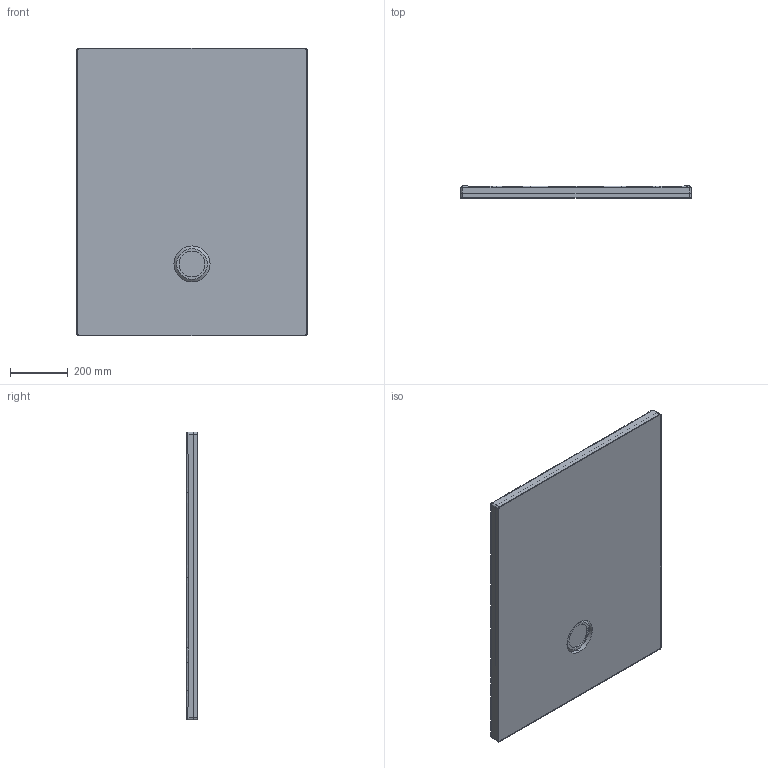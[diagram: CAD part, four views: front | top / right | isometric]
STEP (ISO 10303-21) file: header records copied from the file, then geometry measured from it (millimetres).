
FILE_DESCRIPTION((''),'2;1');
FILE_NAME('PLANEO100X80_22042019_ASM','2019-04-23T16:01:12',('grootj'),('Villeroy & Boch Wellness bv'),'CREO PARAMETRIC BY PTC INC, 2018020','CREO PARAMETRIC BY PTC INC, 2018020','');
FILE_SCHEMA(('CONFIG_CONTROL_DESIGN'));
Length unit declared in the file: millimetre
Products named in the file (4): COLMAR100X80_1-3DEGREE25072018; COVER-CLOSED07102016; PUR_PLANEO100X80_23042019; PLANEO100X80_22042019_ASM
Assembly tree (3 placements, depth 2):
  PLANEO100X80_22042019_ASM
    COLMAR100X80_1-3DEGREE25072018
    COVER-CLOSED07102016
    PUR_PLANEO100X80_23042019
Bounding box: 800 x 40.01 x 1000 mm (x, y, z)
Volume: 14595226.8 mm3; surface area: 3504166.6 mm2
Topology: 3 solids, 3 shells, 278 faces, 648 edges, 380 vertices
Faces by surface type: bspline 192, cylinder 40, plane 30, torus 12, cone 4
Entity records: 18014 total; most frequent: CARTESIAN_POINT 12831, ORIENTED_EDGE 1296, DIRECTION 670, EDGE_CURVE 648, VERTEX_POINT 380, B_SPLINE_CURVE_WITH_KNOTS 336, EDGE_LOOP 286, FACE_OUTER_BOUND 278
